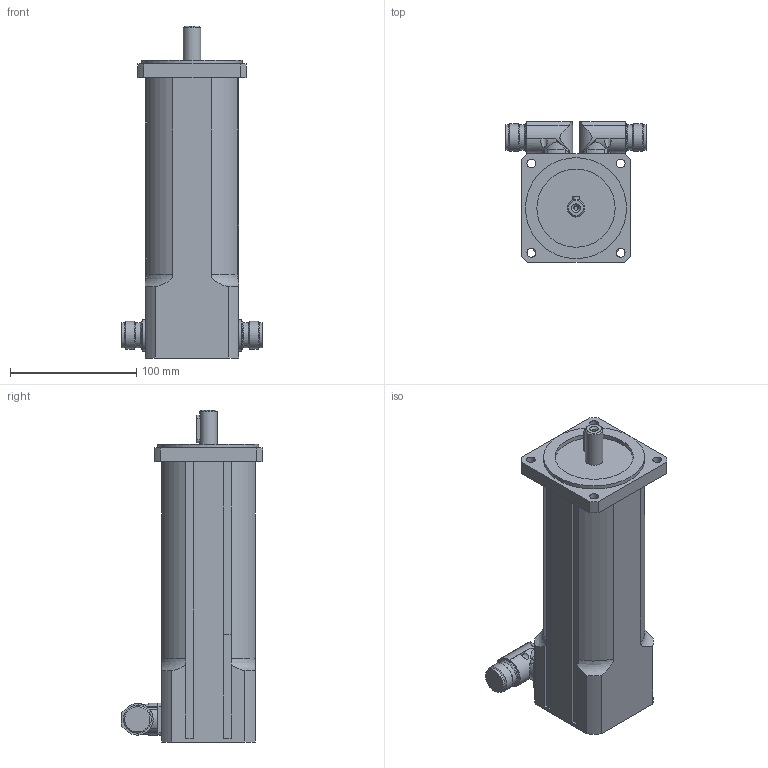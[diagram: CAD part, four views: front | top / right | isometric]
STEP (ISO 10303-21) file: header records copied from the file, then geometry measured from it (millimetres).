
FILE_DESCRIPTION(/* description */ ('Alibre Inc.'),/* implementation_level */ '2;1');
FILE_NAME(/* name */ 'export0',/* time_stamp */ '2011-07-29T11:42:56+02:00',/* author */ (''),/* organization */ (''),/* preprocessor_version */ 'ST-DEVELOPER v12',/* originating_system */ 'Alibre',/* authorisation */ '');
FILE_SCHEMA (('AUTOMOTIVE_DESIGN'));
Length unit declared in the file: millimetre
Products named in the file (5): ID_1
Bounding box: 111 x 112 x 263 mm (x, y, z)
Volume: 1224443.8 mm3; surface area: 109010.8 mm2
Topology: 5 solids, 5 shells, 215 faces, 574 edges, 380 vertices
Faces by surface type: cylinder 105, plane 78, bspline 21, cone 7, torus 4
Full cylindrical faces by diameter (mm): 2.7 x8, 14 x1, 20 x6, 22 x4, 62 x1, 80 x1
Entity records: 5434 total; most frequent: CARTESIAN_POINT 1810, ORIENTED_EDGE 716, DIRECTION 682, EDGE_CURVE 358, AXIS2_PLACEMENT_3D 283, VERTEX_POINT 252, EDGE_LOOP 196, FACE_BOUND 196
